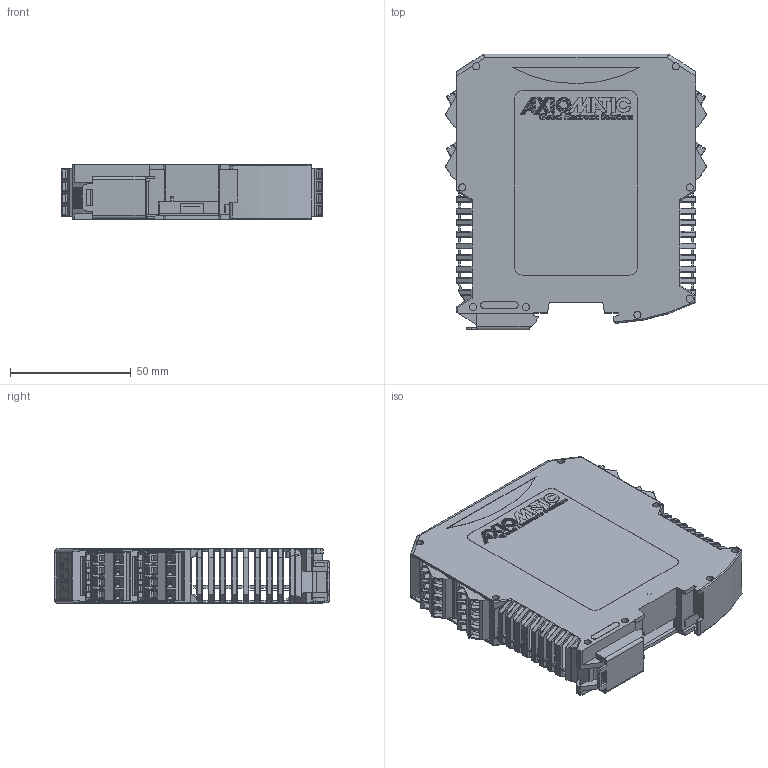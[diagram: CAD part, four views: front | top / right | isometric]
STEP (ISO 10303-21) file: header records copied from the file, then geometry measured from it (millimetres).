
FILE_DESCRIPTION(/* description */ (''),/* implementation_level */ '2;1');
FILE_NAME(/* name */ 'S:\Projects\2IN-2OUT-SIG-DR-I, AX130540, Proj_17001\MECHANICAL\rev 3\ME-MAX-four-connectors-NFC.stp',/* time_stamp */ '2018-08-02T16:39:09-04:00',/* author */ ('tfisher'),/* organization */ (''),/* preprocessor_version */ 'ST-DEVELOPER v15.2',/* originating_system */ 'Autodesk Inventor 2014',/* authorisation */ '');
FILE_SCHEMA (('AUTOMOTIVE_DESIGN { 1 0 10303 214 3 1 1 }'));
Length unit declared in the file: inch
Products named in the file (1): ME MAX four connectors
Bounding box: 108.12 x 113.95 x 22.83 mm (x, y, z)
Volume: 60731.4 mm3; surface area: 87307 mm2
Topology: 2 solids, 37 shells, 9084 faces, 25141 edges, 16349 vertices
Faces by surface type: plane 6793, cylinder 1464, bspline 627, cone 70, torus 66, sphere 64
Full cylindrical faces by diameter (mm): 0.238 x4, 1.35 x2, 1.4 x20, 1.5 x16, 1.6 x1, 1.772 x1, 2.2 x8, 2.381 x1, 2.8 x33, 3 x21, 4.5 x1
Entity records: 298868 total; most frequent: CARTESIAN_POINT 60406, ORIENTED_EDGE 49824, DIRECTION 43711, EDGE_CURVE 24912, LINE 20205, VECTOR 20205, VERTEX_POINT 16300, AXIS2_PLACEMENT_3D 11753
